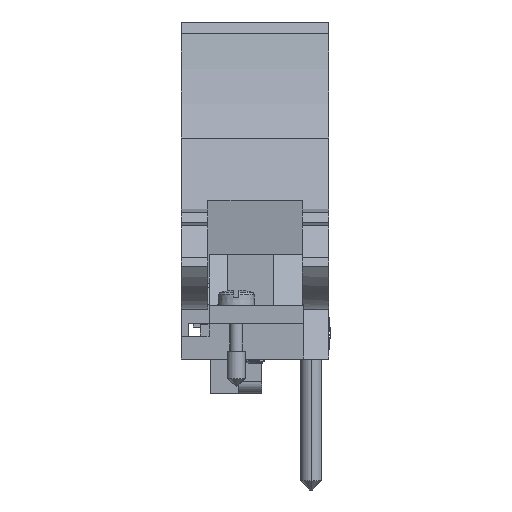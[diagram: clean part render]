
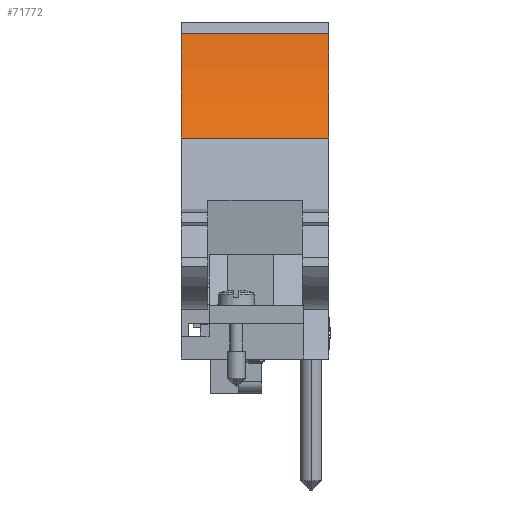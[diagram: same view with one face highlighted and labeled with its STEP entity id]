
A CAD part, front view. The second image highlights one B-rep face of the part: STEP entity #71772.
In plain terms, the highlighted cylindrical face has radius 51.46 mm (diameter 102.919 mm), a partial arc.
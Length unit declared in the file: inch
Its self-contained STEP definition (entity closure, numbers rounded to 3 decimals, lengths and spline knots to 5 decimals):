
#17476=CARTESIAN_POINT('',(0.633,-3.98239,4.1356));
#17477=DIRECTION('',(-1.,0.,0.));
#17478=DIRECTION('',(0.,0.987,-0.16));
#17479=AXIS2_PLACEMENT_3D('',#17476,#17477,#17478);
#17603=CARTESIAN_POINT('',(-0.155,-3.98239,4.1356));
#17604=DIRECTION('',(-1.,0.,0.));
#17605=DIRECTION('',(0.,0.987,-0.16));
#17606=AXIS2_PLACEMENT_3D('',#17603,#17604,#17605);
#17826=DIRECTION('',(-1.,0.,0.));
#17827=VECTOR('',#17826,0.78801);
#17828=CARTESIAN_POINT('',(0.633,-1.98239,3.81227));
#17829=LINE('',#17828,#17827);
#17830=DIRECTION('',(1.,0.,0.));
#17831=VECTOR('',#17830,0.78801);
#17832=CARTESIAN_POINT('',(-0.15501,-2.15815,
3.2543));
#17833=LINE('',#17832,#17831);
#39633=CARTESIAN_POINT('',(0.633,-2.15815,3.2543));
#39634=VERTEX_POINT('',#39633);
#39635=CARTESIAN_POINT('',(0.633,-1.98239,3.81227));
#39636=VERTEX_POINT('',#39635);
#39731=CARTESIAN_POINT('',(-0.15501,-2.15815,
3.2543));
#39732=VERTEX_POINT('',#39731);
#39733=CARTESIAN_POINT('',(-0.155,-1.98239,3.81227));
#39734=VERTEX_POINT('',#39733);
#71760=CARTESIAN_POINT('',(-0.17076,-3.98239,4.1356));
#71761=DIRECTION('',(1.,0.,0.));
#71762=DIRECTION('',(0.,0.,-1.));
#71763=AXIS2_PLACEMENT_3D('',#71760,#71761,#71762);
#71764=CYLINDRICAL_SURFACE('',#71763,2.02597);
#71766=ORIENTED_EDGE('',*,*,#71765,.F.);
#71767=ORIENTED_EDGE('',*,*,#71321,.T.);
#71768=ORIENTED_EDGE('',*,*,#71740,.F.);
#71769=ORIENTED_EDGE('',*,*,#71476,.F.);
#71770=EDGE_LOOP('',(#71766,#71767,#71768,#71769));
#71771=FACE_OUTER_BOUND('',#71770,.F.);
#71772=ADVANCED_FACE('',(#71771),#71764,.F.);
#17480=CIRCLE('',#17479,2.02597);
#17607=CIRCLE('',#17606,2.02597);
#71321=EDGE_CURVE('',#39636,#39634,#17480,.T.);
#71476=EDGE_CURVE('',#39734,#39732,#17607,.T.);
#71740=EDGE_CURVE('',#39732,#39634,#17833,.T.);
#71765=EDGE_CURVE('',#39636,#39734,#17829,.T.);
